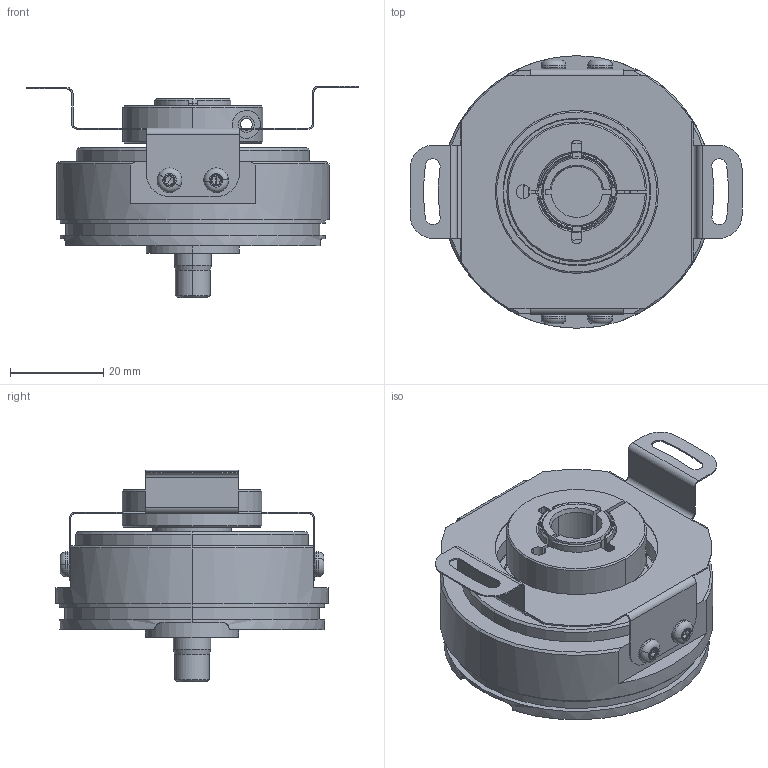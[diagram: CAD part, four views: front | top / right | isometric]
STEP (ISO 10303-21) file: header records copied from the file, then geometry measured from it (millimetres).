
FILE_DESCRIPTION (( 'STEP AP203' ), '1' );
FILE_NAME ('OCD-B110-C5Y-N.STEP', '2014-05-26T09:56:14', ( '' ), ( '' ), 'SwSTEP 2.0', 'SolidWorks 2014', '' );
FILE_SCHEMA (( 'CONFIG_CONTROL_DESIGN' ));
Length unit declared in the file: millimetre
Products named in the file (1): OCD-B110-C5Y-N
Bounding box: 71.24 x 58.5 x 45.48 mm (x, y, z)
Surface area: 31755.1 mm2 (no closed solid volume)
Topology: 0 solids, 17 shells, 639 faces, 1577 edges, 986 vertices
Faces by surface type: cylinder 232, plane 169, cone 154, torus 80, bspline 4
Entity records: 20351 total; most frequent: CARTESIAN_POINT 4848, DIRECTION 3499, ORIENTED_EDGE 3082, EDGE_CURVE 1557, AXIS2_PLACEMENT_3D 1486, VERTEX_POINT 986, CIRCLE 850, EDGE_LOOP 717
